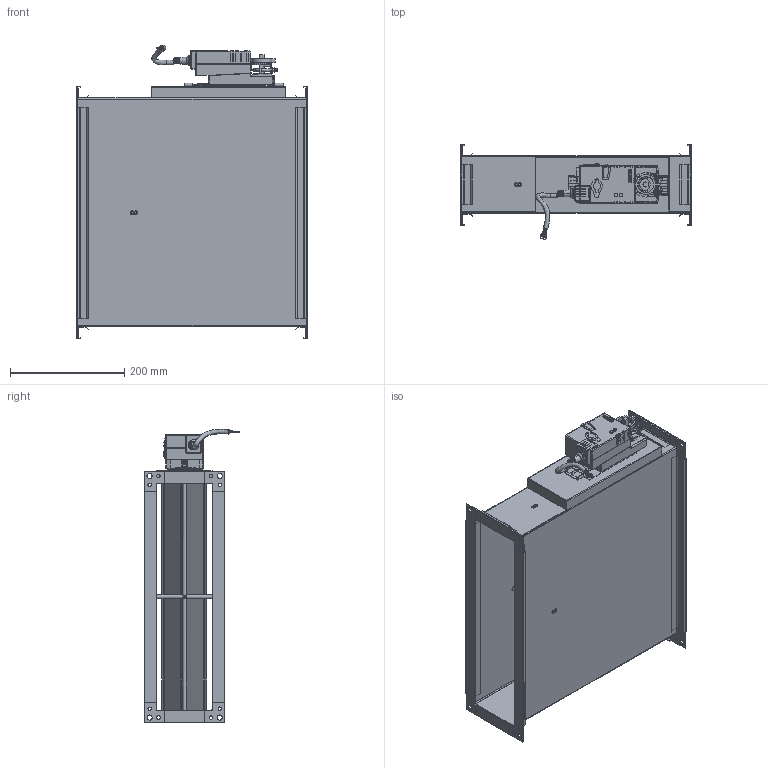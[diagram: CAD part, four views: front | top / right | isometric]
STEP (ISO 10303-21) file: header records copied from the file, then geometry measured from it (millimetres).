
FILE_DESCRIPTION (( 'STEP AP214' ), '1' );
FILE_NAME ('VAV-S400100.STEP', '2025-05-07T13:38:47', ( '' ), ( '' ), 'SwSTEP 2.0', 'SolidWorks 2025', '' );
FILE_SCHEMA (( 'AUTOMOTIVE_DESIGN' ));
Length unit declared in the file: millimetre
Products named in the file (1): VAV-S400100
Bounding box: 404.4 x 166.91 x 513.69 mm (x, y, z)
Surface area: 1380524.5 mm2 (no closed solid volume)
Topology: 0 solids, 58 shells, 2058 faces, 5296 edges, 3361 vertices
Faces by surface type: plane 1517, cylinder 488, bspline 24, sphere 18, cone 10, torus 1
Full cylindrical faces by diameter (mm): 1 x4, 4 x8, 5.876 x4, 6 x3, 6.102 x6, 8 x1, 9 x4, 11 x1, 20 x1, 21 x2
Entity records: 90337 total; most frequent: CARTESIAN_POINT 41495, ORIENTED_EDGE 10363, DIRECTION 6569, EDGE_CURVE 5205, VERTEX_POINT 3329, B_SPLINE_CURVE_WITH_KNOTS 3162, AXIS2_PLACEMENT_3D 2523, EDGE_LOOP 2255
